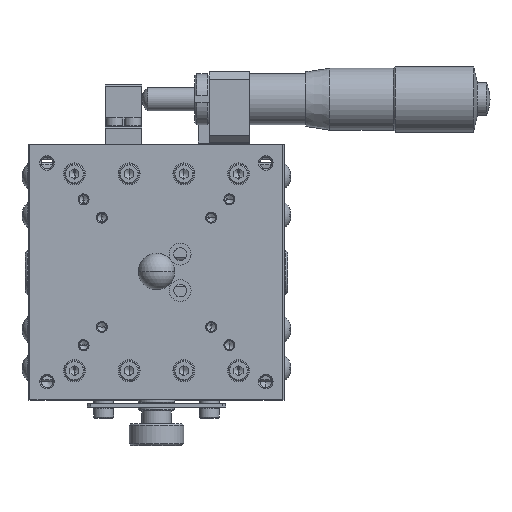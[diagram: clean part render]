
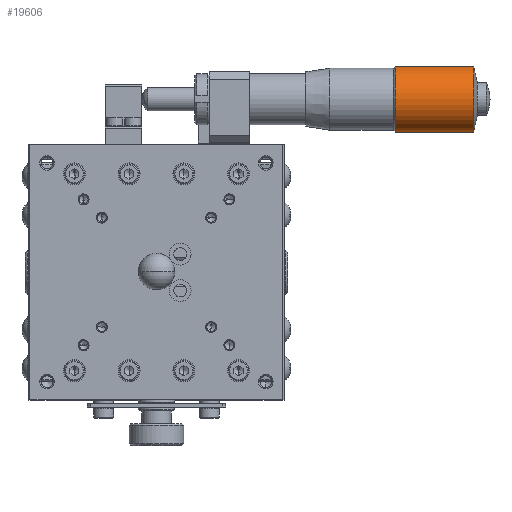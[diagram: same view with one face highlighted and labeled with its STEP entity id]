
A CAD part, top view. The second image highlights one B-rep face of the part: STEP entity #19606.
In plain terms, the highlighted cylindrical face has radius 9 mm (diameter 18 mm), a partial arc.
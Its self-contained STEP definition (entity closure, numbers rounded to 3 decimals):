
#19603 = VERTEX_POINT ( 'NONE', #49486 ) ;
#19606 = ADVANCED_FACE ( 'NONE', ( #49481 ), #49478, .T. ) ;
#19607 = EDGE_LOOP ( 'NONE', ( #19608, #19612, #19614, #19615 ) ) ;
#19608 = ORIENTED_EDGE ( 'NONE', *, *, #19609, .T. ) ;
#19609 = EDGE_CURVE ( 'NONE', #19610, #19611, #49531, .T. ) ;
#19610 = VERTEX_POINT ( 'NONE', #49527 ) ;
#19611 = VERTEX_POINT ( 'NONE', #49526 ) ;
#19612 = ORIENTED_EDGE ( 'NONE', *, *, #19613, .T. ) ;
#19613 = EDGE_CURVE ( 'NONE', #19611, #19603, #49525, .T. ) ;
#19614 = ORIENTED_EDGE ( 'NONE', *, *, #19629, .F. ) ;
#19615 = ORIENTED_EDGE ( 'NONE', *, *, #19671, .F. ) ;
#19627 = VERTEX_POINT ( 'NONE', #49503 ) ;
#19629 = EDGE_CURVE ( 'NONE', #19627, #19603, #49566, .T. ) ;
#19671 = EDGE_CURVE ( 'NONE', #19610, #19627, #49613, .T. ) ;
#49478 = CYLINDRICAL_SURFACE ( 'NONE', #49480, 9. ) ;
#49479 = CARTESIAN_POINT ( 'NONE',  ( 91., 0., 0. ) ) ;
#49480 = AXIS2_PLACEMENT_3D ( 'NONE', #49534, #49533, #49532 ) ;
#49481 = FACE_OUTER_BOUND ( 'NONE', #19607, .T. ) ;
#49486 = CARTESIAN_POINT ( 'NONE',  ( 69.5, 9., 0. ) ) ;
#49503 = CARTESIAN_POINT ( 'NONE',  ( 69.5, -9., 0. ) ) ;
#49522 = DIRECTION ( 'NONE',  ( -1., 0., 0. ) ) ;
#49523 = VECTOR ( 'NONE', #49522, 1000. ) ;
#49524 = CARTESIAN_POINT ( 'NONE',  ( -2.669, 9., 0. ) ) ;
#49525 = LINE ( 'NONE', #49524, #49523 ) ;
#49526 = CARTESIAN_POINT ( 'NONE',  ( 91., 9., 0. ) ) ;
#49527 = CARTESIAN_POINT ( 'NONE',  ( 91., -9., 0. ) ) ;
#49528 = DIRECTION ( 'NONE',  ( 0., -1., 0. ) ) ;
#49529 = DIRECTION ( 'NONE',  ( -1., 0., 0. ) ) ;
#49530 = AXIS2_PLACEMENT_3D ( 'NONE', #49479, #49529, #49528 ) ;
#49531 = CIRCLE ( 'NONE', #49530, 9. ) ;
#49532 = DIRECTION ( 'NONE',  ( 0., -1., 0. ) ) ;
#49533 = DIRECTION ( 'NONE',  ( -1., 0., 0. ) ) ;
#49534 = CARTESIAN_POINT ( 'NONE',  ( -2.669, 0., 0. ) ) ;
#49562 = DIRECTION ( 'NONE',  ( 0., -1., 0. ) ) ;
#49563 = DIRECTION ( 'NONE',  ( -1., 0., 0. ) ) ;
#49564 = CARTESIAN_POINT ( 'NONE',  ( 69.5, 0., 0. ) ) ;
#49565 = AXIS2_PLACEMENT_3D ( 'NONE', #49564, #49563, #49562 ) ;
#49566 = CIRCLE ( 'NONE', #49565, 9. ) ;
#49610 = DIRECTION ( 'NONE',  ( -1., 0., 0. ) ) ;
#49611 = VECTOR ( 'NONE', #49610, 1000. ) ;
#49612 = CARTESIAN_POINT ( 'NONE',  ( -2.669, -9., 0. ) ) ;
#49613 = LINE ( 'NONE', #49612, #49611 ) ;
